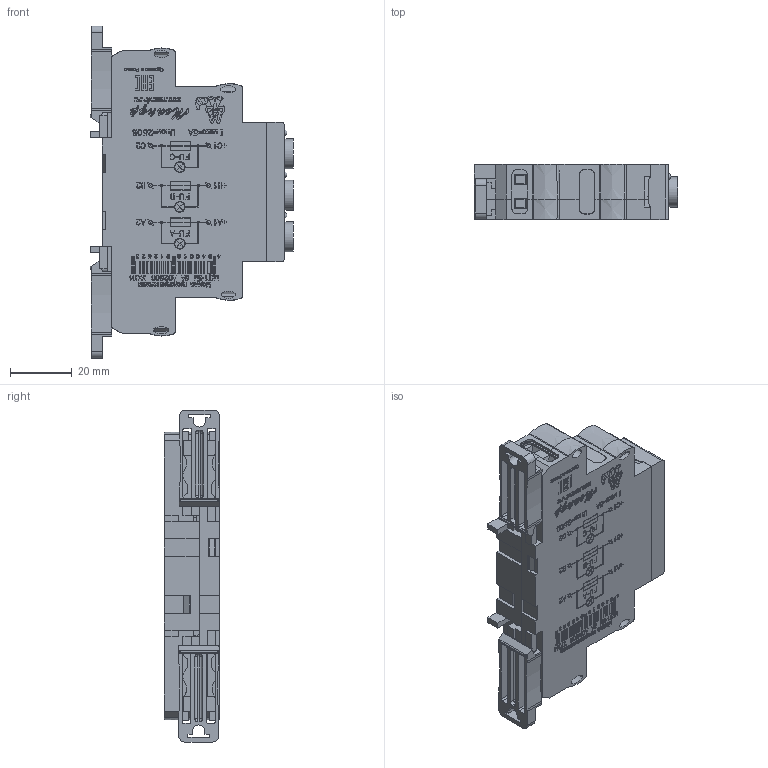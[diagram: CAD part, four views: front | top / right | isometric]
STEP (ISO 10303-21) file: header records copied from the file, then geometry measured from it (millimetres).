
FILE_DESCRIPTION(('STEP AP203'), '1');
FILE_NAME('ﾑ碚濱02_髜_ﾌﾄﾏ-3ﾌ', '', ('UNSPECIFIED'), ('UNSPECIFIED'), 'ASCON STEP Converter 1.6', 'ASCON Math Kernel', '');
FILE_SCHEMA(('CONFIG_CONTROL_DESIGN'));
Length unit declared in the file: millimetre
Products named in the file (14): Case13-18-23mm_2step_Half_v01a_Build20140909_1552_6.5mm; Case13-18-23mm_2step_Half_v01a_Build20140909_1552_11.25mm; Case13-18-23mm_2step_plug_v01_Build20140909_1552_18mm; Case13-18-23mm_2step_Lock_v01a_Build20140909_1552; Case13-18-23mm_2step_Face_v01_Build20140909_1552_18mm
Assembly tree (21 placements, depth 3):
  (unnamed)
    Case13-18-23mm_2step_Half_v01a_Build20140909_1552_6.5mm
    Case13-18-23mm_2step_Half_v01a_Build20140909_1552_11.25mm
    Case13-18-23mm_2step_plug_v01_Build20140909_1552_18mm  x2
    Case13-18-23mm_2step_Lock_v01a_Build20140909_1552  x2
    (unnamed)  x3
    (unnamed)
      Case13-18-23mm_2step_Face_v01_Build20140909_1552_18mm
      (unnamed)  x3
      (unnamed)  x3
      (unnamed)
    (unnamed)
    (unnamed)
    (unnamed)
Bounding box: 65.85 x 17.76 x 107.2 mm (x, y, z)
Volume: 24689.7 mm3; surface area: 39732.6 mm2
Topology: 213 solids, 213 shells, 9551 faces, 27221 edges, 18111 vertices
Faces by surface type: plane 7286, extrusion 1971, cylinder 251, cone 24, sphere 11, bspline 4, torus 4
Full cylindrical faces by diameter (mm): 2.1 x6, 3.9 x6, 9.7 x6, 11 x3, 13.2 x3
Entity records: 379129 total; most frequent: CARTESIAN_POINT 71594, ORIENTED_EDGE 52418, DIRECTION 39172, EDGE_CURVE 26209, VECTOR 23822, LINE 21889, VERTEX_POINT 17462, EDGE_LOOP 9479
